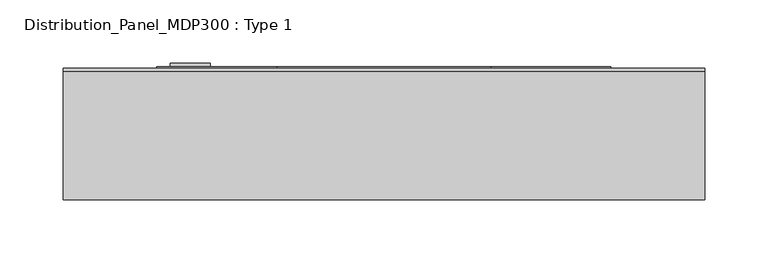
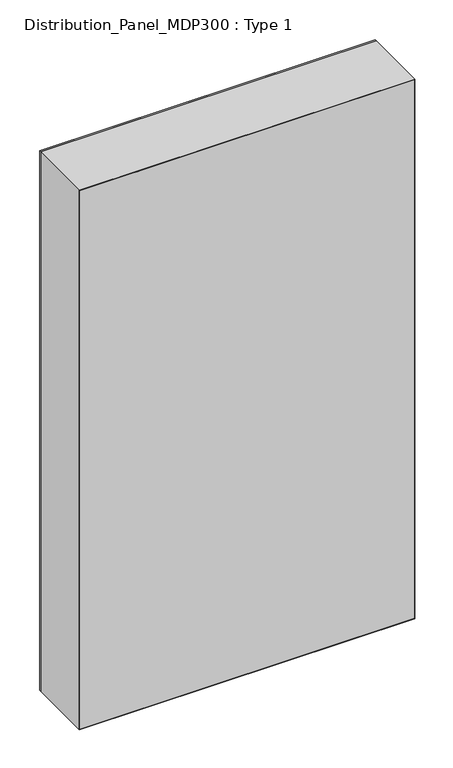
"""IFC4 building model written with IfcOpenShell, lengths in millimetres: proxy geometry, Distribution_Panel_MDP300 : Type 1."""

from ifc_helpers import new_model, si_unit, point, frame, origin, place, context, project, spatial, polyline, ellipse_curve, trimmed, outline, extrude, faceted_brep, source, transform, mapped, element, save
from ifc_brep_helpers import plane_surface, extruded_surface, advanced_brep


def distribution_panel_mdp300_type_1_70450f75(model_context):
    return source(origin(), model_context, "Body", "SolidModel", [
        extrude(outline(polyline([(253.0, 12.0), (-252.9874353, 12.0), (-252.9874353, 78.0051165), (253.0, 78.0051165), (253.0, 12.0)])), frame((0.0, 0.0, 1526.9923652), z_axis=(0.0, 0.0, 1.0), x_axis=(1.0, 0.0, 0.0)), (0.0, 0.0, 1.0), 862.0),
        extrude(outline(polyline([(254.0, 113.5998806), (-253.9874353, 113.5998806), (-253.9874353, 115.9891644), (254.0, 115.9891644), (254.0, 113.5998806)])), frame((0.0, 0.0, 1525.9923652), z_axis=(0.0, 0.0, 1.0), x_axis=(1.0, 0.0, 0.0)), (0.0, 0.0, 1.0), 864.0),
        advanced_brep(
        [(-169.357379, 116.9984832, 1964.0003033), (-169.357379, 116.9984832, 1889.38718), (-137.6081643, 116.9984832, 1889.38718), (-137.6081643, 116.9984832, 1964.0003033), (-164.1905943, 116.9984832, 1950.5486799), (-142.6528497, 116.9984832, 1950.5486799), (-168.034495, 116.9984832, 1916.5192249), (-168.034495, 116.9984832, 1936.8682585), (-138.9310482, 116.9984832, 1936.8682585), (-138.9310482, 116.9984832, 1916.5192249), (-169.357379, 119.9721115, 1964.0003033), (-137.6081643, 119.9721115, 1964.0003033), (-137.6081643, 119.9721115, 1889.38718), (-169.357379, 119.9721115, 1889.38718), (-164.1905943, 119.9721115, 1950.5486799), (-142.6528497, 119.9721115, 1950.5486799), (-168.034495, 119.9721115, 1916.5192249), (-138.9310482, 119.9721115, 1916.5192249), (-138.9310482, 119.9721115, 1936.8682585), (-168.034495, 119.9721115, 1936.8682585)],
        [
            (0, 1),
            (1, 2),
            (2, 3),
            (3, 0),
            (4, 5, ellipse_curve(frame((-153.421722, 116.9984832, 1950.5486799), z_axis=(0.0, 1.0, 0.0), x_axis=(1.0, 0.0, 0.0)), 10.7688723, 6.8922021)),
            (5, 4, ellipse_curve(frame((-153.421722, 116.9984832, 1950.5486799), z_axis=(0.0, 1.0, 0.0), x_axis=(1.0, 0.0, 0.0)), 10.7688723, 6.8922021)),
            (6, 7),
            (7, 8),
            (8, 9),
            (9, 6),
            (10, 11),
            (11, 12),
            (12, 13),
            (13, 10),
            (14, 15, ellipse_curve(frame((-153.421722, 119.9721115, 1950.5486799), z_axis=(0.0, -1.0, 0.0), x_axis=(1.0, 0.0, 0.0)), 10.7688723, 6.8922021)),
            (15, 14, ellipse_curve(frame((-153.421722, 119.9721115, 1950.5486799), z_axis=(0.0, -1.0, 0.0), x_axis=(1.0, 0.0, 0.0)), 10.7688723, 6.8922021)),
            (16, 17),
            (17, 18),
            (18, 19),
            (19, 16),
            (0, 10),
            (13, 1),
            (12, 2),
            (11, 3),
            (4, 14),
            (15, 5),
            (6, 16),
            (19, 7),
            (18, 8),
            (17, 9),
        ],
        [
            plane_surface(frame((-169.357379, 116.9984832, 1964.0003033), z_axis=(0.0, -1.0, 0.0), x_axis=(0.0, 0.0, -1.0))),
            plane_surface(frame((-169.357379, 119.9721115, 1964.0003033), z_axis=(0.0, 1.0, 0.0), x_axis=(0.0, 0.0, 1.0))),
            plane_surface(frame((-169.357379, 116.9984832, 1964.0003033), z_axis=(-1.0, 0.0, 0.0), x_axis=(0.0, 1.0, 0.0))),
            plane_surface(frame((-169.357379, 116.9984832, 1889.38718), z_axis=(0.0, 0.0, -1.0), x_axis=(0.0, 1.0, 0.0))),
            plane_surface(frame((-137.6081643, 116.9984832, 1889.38718), z_axis=(1.0, 0.0, 0.0), x_axis=(0.0, 1.0, 0.0))),
            plane_surface(frame((-137.6081643, 116.9984832, 1964.0003033), z_axis=(0.0, 0.0, 1.0), x_axis=(0.0, 1.0, 0.0))),
            extruded_surface(trimmed(ellipse_curve(frame((-153.421722, 14.9736282, 1950.5486799), z_axis=(0.0, 1.0, 0.0), x_axis=(1.0, 0.0, 0.0)), 10.7688723, 6.8922021), [point((-164.1905943, 14.9736282, 1950.5486799))], [point((-142.6528497, 14.9736282, 1950.5486799))], True, "CARTESIAN"), (0.0, -2.9736282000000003, 0.0), 2.9736282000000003),
            extruded_surface(trimmed(ellipse_curve(frame((-153.421722, 14.9736282, 1950.5486799), z_axis=(0.0, 1.0, 0.0), x_axis=(1.0, 0.0, 0.0)), 10.7688723, 6.8922021), [point((-142.6528497, 14.9736282, 1950.5486799))], [point((-164.1905943, 14.9736282, 1950.5486799))], True, "CARTESIAN"), (0.0, -2.9736282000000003, 0.0), 2.9736282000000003),
            plane_surface(frame((-168.034495, 116.9984832, 1916.5192249), z_axis=(1.0, 0.0, 0.0), x_axis=(0.0, 1.0, 0.0))),
            plane_surface(frame((-168.034495, 116.9984832, 1936.8682585), z_axis=(0.0, 0.0, -1.0), x_axis=(0.0, 1.0, 0.0))),
            plane_surface(frame((-138.9310482, 116.9984832, 1936.8682585), z_axis=(-1.0, 0.0, 0.0), x_axis=(0.0, 1.0, 0.0))),
            plane_surface(frame((-138.9310482, 116.9984832, 1916.5192249), z_axis=(0.0, 0.0, 1.0), x_axis=(0.0, 1.0, 0.0))),
        ],
        [
            (0, [[1, 2, 3, 4], [5, 6], [7, 8, 9, 10]]),
            (1, [[11, 12, 13, 14], [15, 16], [17, 18, 19, 20]]),
            (2, [[-1, 21, -14, 22]]),
            (3, [[-2, -22, -13, 23]]),
            (4, [[-3, -23, -12, 24]]),
            (5, [[-4, -24, -11, -21]]),
            (6, [[-5, 25, -16, 26]]),
            (7, [[-6, -26, -15, -25]]),
            (8, [[-7, 27, -20, 28]]),
            (9, [[-8, -28, -19, 29]]),
            (10, [[-9, -29, -18, 30]]),
            (11, [[-10, -30, -17, -27]]),
        ],
    ),
        faceted_brep([(-160.9661268, 116.9984832, 1951.2821037), (-160.9661268, 116.9984832, 1949.5864223), (-145.9993078, 116.9984832, 1949.5864223), (-145.9993078, 116.9984832, 1951.2821037), (-160.9661268, 119.9721115, 1951.2821037), (-145.9993078, 119.9721115, 1951.2821037), (-145.9993078, 119.9721115, 1949.5864223), (-160.9661268, 119.9721115, 1949.5864223)], [[[0, 1, 2, 3]], [[4, 5, 6, 7]], [[1, 0, 4, 7]], [[2, 1, 7, 6]], [[3, 2, 6, 5]], [[0, 3, 5, 4]]]),
        faceted_brep([(-139.9310482, 116.9984832, 1935.8682585), (-167.034495, 116.9984832, 1935.8682585), (-167.034495, 116.9984832, 1917.5192249), (-139.9310482, 116.9984832, 1917.5192249), (-139.9310482, 119.9721115, 1935.8682585), (-139.9310482, 119.9721115, 1917.5192249), (-167.034495, 119.9721115, 1917.5192249), (-167.034495, 119.9721115, 1935.8682585)], [[[0, 1, 2, 3]], [[4, 5, 6, 7]], [[1, 0, 4, 7]], [[2, 1, 7, 6]], [[3, 2, 6, 5]], [[0, 3, 5, 4]]]),
        extrude(outline(polyline([(84.6644543, 115.9891644), (-84.6644543, 115.9891644), (-84.6644543, 116.9984832), (84.6644543, 116.9984832), (84.6644543, 115.9891644)])), frame((0.0, 0.0, 2323.4341052), z_axis=(0.0, 0.0, 1.0), x_axis=(1.0, 0.0, 0.0)), (0.0, 0.0, 1.0), 44.08946),
        extrude(outline(polyline([(179.643651, 115.9891644), (-179.9404506, 115.9891644), (-179.9404506, 116.9984832), (179.643651, 116.9984832), (179.643651, 115.9891644)])), frame((0.0, 0.0, 1559.9074132), z_axis=(0.0, 0.0, 1.0), x_axis=(1.0, 0.0, 0.0)), (0.0, 0.0, 1.0), 740.2100454),
        extrude(outline(polyline([(2389.9923652, -253.9874353), (1525.9923652, -253.9874353), (1525.9923652, 254.0), (2389.9923652, 254.0), (2389.9923652, -253.9874353)]), holes=[polyline([(2388.9923652, 253.0), (1526.9923652, 253.0), (1526.9923652, -252.9874353), (2388.9923652, -252.9874353), (2388.9923652, 253.0)])]), frame((0.0, 12.0, 0.0), z_axis=(0.0, 1.0, 0.0), x_axis=(0.0, 0.0, 1.0)), (0.0, 0.0, 1.0), 101.5998806),
    ])


if __name__ == "__main__":
    model = new_model("IFC4")
    model_context = context("Model", 3, world=origin())
    ifc_project = project(units=[si_unit("LENGTHUNIT", "METRE", prefix="MILLI")], contexts=[model_context])
    site = spatial("IfcSite", under=ifc_project)
    building = spatial("IfcBuilding", under=site)
    placement = place(None, origin())
    distribution_panel_mdp300_type_1_shape = distribution_panel_mdp300_type_1_70450f75(model_context)
    element("IfcBuildingElementProxy", 1, Name="Distribution_Panel_MDP300 : Type 1", ObjectType="Distribution_Panel_MDP300 : Type 1", at=placement, inside=building, context=model_context, shape_type="MappedRepresentation", body=[
        mapped(distribution_panel_mdp300_type_1_shape, transform((0.0, 0.0, 0.0), x_axis=(1.0, 0.0, 0.0), y_axis=(0.0, 1.0, 0.0), z_axis=(0.0, 0.0, 1.0))),
    ])
    save(model, "model.ifc")
